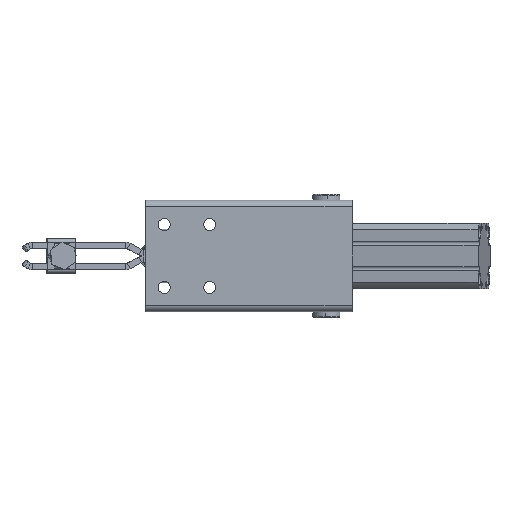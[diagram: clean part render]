
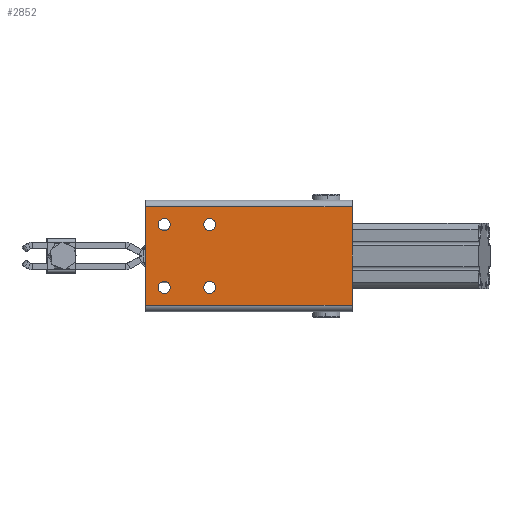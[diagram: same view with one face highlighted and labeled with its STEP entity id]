
A CAD part, front view. The second image highlights one B-rep face of the part: STEP entity #2852.
In plain terms, the highlighted planar face has unit normal (0, -1, 0).
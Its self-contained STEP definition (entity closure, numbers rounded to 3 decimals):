
#32 = CIRCLE ( 'NONE', #19331, 4.25 ) ;
#216 = VERTEX_POINT ( 'NONE', #6413 ) ;
#349 = EDGE_CURVE ( 'NONE', #5776, #405, #2007, .T. ) ;
#405 = VERTEX_POINT ( 'NONE', #11516 ) ;
#562 = FACE_BOUND ( 'NONE', #16932, .T. ) ;
#929 = EDGE_CURVE ( 'NONE', #15865, #11079, #32, .T. ) ;
#1055 = FACE_OUTER_BOUND ( 'NONE', #5077, .T. ) ;
#1233 = DIRECTION ( 'NONE',  ( -1., 0., 0. ) ) ;
#1346 = DIRECTION ( 'NONE',  ( 0., 0., 1. ) ) ;
#1391 = DIRECTION ( 'NONE',  ( 0., 0., 1. ) ) ;
#1437 = EDGE_CURVE ( 'NONE', #216, #2983, #5170, .T. ) ;
#1479 = CARTESIAN_POINT ( 'NONE',  ( -22., -3.75, -40.75 ) ) ;
#1757 = AXIS2_PLACEMENT_3D ( 'NONE', #11448, #1985, #13012 ) ;
#1985 = DIRECTION ( 'NONE',  ( 0., 1., 0. ) ) ;
#2007 = CIRCLE ( 'NONE', #1757, 4.25 ) ;
#2076 = CIRCLE ( 'NONE', #13935, 4.25 ) ;
#2763 = CARTESIAN_POINT ( 'NONE',  ( 22., -3.75, -40.75 ) ) ;
#2795 = VERTEX_POINT ( 'NONE', #6175 ) ;
#2852 = ADVANCED_FACE ( 'NONE', ( #1055, #8928, #13126, #4733, #562 ), #17236, .F. ) ;
#2951 = EDGE_CURVE ( 'NONE', #10004, #5260, #19032, .T. ) ;
#2983 = VERTEX_POINT ( 'NONE', #16054 ) ;
#3511 = EDGE_LOOP ( 'NONE', ( #18803, #15629 ) ) ;
#3555 = DIRECTION ( 'NONE',  ( 0., 1., 0. ) ) ;
#3577 = EDGE_CURVE ( 'NONE', #13445, #2795, #5747, .T. ) ;
#3643 = DIRECTION ( 'NONE',  ( 0., 0., -1. ) ) ;
#3650 = LINE ( 'NONE', #6225, #16705 ) ;
#3851 = CARTESIAN_POINT ( 'NONE',  ( 22., -3.75, -17.25 ) ) ;
#3860 = EDGE_CURVE ( 'NONE', #2983, #13445, #17041, .T. ) ;
#3885 = EDGE_LOOP ( 'NONE', ( #19570, #11877 ) ) ;
#3990 = AXIS2_PLACEMENT_3D ( 'NONE', #20210, #10801, #1346 ) ;
#4481 = DIRECTION ( 'NONE',  ( 1., 0., 0. ) ) ;
#4487 = ORIENTED_EDGE ( 'NONE', *, *, #4785, .T. ) ;
#4516 = ORIENTED_EDGE ( 'NONE', *, *, #11739, .T. ) ;
#4733 = FACE_BOUND ( 'NONE', #3885, .T. ) ;
#4785 = EDGE_CURVE ( 'NONE', #5260, #10004, #5940, .T. ) ;
#5077 = EDGE_LOOP ( 'NONE', ( #12094, #5567, #18009, #10958 ) ) ;
#5170 = LINE ( 'NONE', #13937, #13550 ) ;
#5260 = VERTEX_POINT ( 'NONE', #12307 ) ;
#5567 = ORIENTED_EDGE ( 'NONE', *, *, #1437, .F. ) ;
#5586 = EDGE_CURVE ( 'NONE', #11079, #15865, #19697, .T. ) ;
#5747 = LINE ( 'NONE', #10687, #14115 ) ;
#5776 = VERTEX_POINT ( 'NONE', #14707 ) ;
#5940 = CIRCLE ( 'NONE', #16591, 4.25 ) ;
#6175 = CARTESIAN_POINT ( 'NONE',  ( -34.5, -3.75, -145. ) ) ;
#6225 = CARTESIAN_POINT ( 'NONE',  ( -34.5, -3.75, -125. ) ) ;
#6300 = AXIS2_PLACEMENT_3D ( 'NONE', #17584, #8157, #19183 ) ;
#6321 = DIRECTION ( 'NONE',  ( 0., 0., 1. ) ) ;
#6413 = CARTESIAN_POINT ( 'NONE',  ( -34.5, -3.75, 0. ) ) ;
#6625 = CARTESIAN_POINT ( 'NONE',  ( -22., -3.75, -45. ) ) ;
#7717 = EDGE_LOOP ( 'NONE', ( #16225, #4487 ) ) ;
#7945 = VERTEX_POINT ( 'NONE', #3851 ) ;
#8105 = CARTESIAN_POINT ( 'NONE',  ( 22., -3.75, -45. ) ) ;
#8157 = DIRECTION ( 'NONE',  ( 0., 1., 0. ) ) ;
#8195 = DIRECTION ( 'NONE',  ( 0., 0., 1. ) ) ;
#8210 = EDGE_CURVE ( 'NONE', #2795, #216, #3650, .T. ) ;
#8399 = DIRECTION ( 'NONE',  ( 0., 1., 0. ) ) ;
#8808 = CARTESIAN_POINT ( 'NONE',  ( 22., -3.75, -49.25 ) ) ;
#8928 = FACE_BOUND ( 'NONE', #3511, .T. ) ;
#9567 = ORIENTED_EDGE ( 'NONE', *, *, #19435, .T. ) ;
#9682 = DIRECTION ( 'NONE',  ( 0., 0., 1. ) ) ;
#9901 = EDGE_CURVE ( 'NONE', #405, #5776, #20381, .T. ) ;
#10004 = VERTEX_POINT ( 'NONE', #1479 ) ;
#10687 = CARTESIAN_POINT ( 'NONE',  ( 98.5, -3.75, -145. ) ) ;
#10801 = DIRECTION ( 'NONE',  ( 0., 1., 0. ) ) ;
#10848 = DIRECTION ( 'NONE',  ( 0., 1., 0. ) ) ;
#10958 = ORIENTED_EDGE ( 'NONE', *, *, #3577, .F. ) ;
#11079 = VERTEX_POINT ( 'NONE', #2763 ) ;
#11198 = CIRCLE ( 'NONE', #12249, 4.25 ) ;
#11448 = CARTESIAN_POINT ( 'NONE',  ( -22., -3.75, -13. ) ) ;
#11516 = CARTESIAN_POINT ( 'NONE',  ( -22., -3.75, -17.25 ) ) ;
#11739 = EDGE_CURVE ( 'NONE', #18715, #7945, #2076, .T. ) ;
#11877 = ORIENTED_EDGE ( 'NONE', *, *, #9901, .T. ) ;
#12094 = ORIENTED_EDGE ( 'NONE', *, *, #3860, .F. ) ;
#12249 = AXIS2_PLACEMENT_3D ( 'NONE', #13001, #3555, #14591 ) ;
#12307 = CARTESIAN_POINT ( 'NONE',  ( -22., -3.75, -49.25 ) ) ;
#12379 = VECTOR ( 'NONE', #3643, 1000. ) ;
#13001 = CARTESIAN_POINT ( 'NONE',  ( 22., -3.75, -13. ) ) ;
#13012 = DIRECTION ( 'NONE',  ( 0., 0., 1. ) ) ;
#13077 = CARTESIAN_POINT ( 'NONE',  ( 34.5, -3.75, -125. ) ) ;
#13126 = FACE_BOUND ( 'NONE', #7717, .T. ) ;
#13445 = VERTEX_POINT ( 'NONE', #14035 ) ;
#13550 = VECTOR ( 'NONE', #4481, 1000. ) ;
#13935 = AXIS2_PLACEMENT_3D ( 'NONE', #17833, #8399, #19427 ) ;
#13937 = CARTESIAN_POINT ( 'NONE',  ( -44.461, -3.75, 0. ) ) ;
#14035 = CARTESIAN_POINT ( 'NONE',  ( 34.5, -3.75, -145. ) ) ;
#14081 = CARTESIAN_POINT ( 'NONE',  ( 98.5, -3.75, -125. ) ) ;
#14115 = VECTOR ( 'NONE', #1233, 1000. ) ;
#14371 = AXIS2_PLACEMENT_3D ( 'NONE', #20261, #10848, #1391 ) ;
#14591 = DIRECTION ( 'NONE',  ( 0., 0., 1. ) ) ;
#14707 = CARTESIAN_POINT ( 'NONE',  ( -22., -3.75, -8.75 ) ) ;
#15454 = CARTESIAN_POINT ( 'NONE',  ( 22., -3.75, -8.75 ) ) ;
#15629 = ORIENTED_EDGE ( 'NONE', *, *, #929, .T. ) ;
#15732 = DIRECTION ( 'NONE',  ( 0., 1., 0. ) ) ;
#15865 = VERTEX_POINT ( 'NONE', #8808 ) ;
#16054 = CARTESIAN_POINT ( 'NONE',  ( 34.5, -3.75, 0. ) ) ;
#16225 = ORIENTED_EDGE ( 'NONE', *, *, #2951, .T. ) ;
#16591 = AXIS2_PLACEMENT_3D ( 'NONE', #6625, #17621, #8195 ) ;
#16705 = VECTOR ( 'NONE', #17217, 1000. ) ;
#16932 = EDGE_LOOP ( 'NONE', ( #4516, #9567 ) ) ;
#17041 = LINE ( 'NONE', #13077, #12379 ) ;
#17217 = DIRECTION ( 'NONE',  ( 0., 0., 1. ) ) ;
#17219 = AXIS2_PLACEMENT_3D ( 'NONE', #14081, #15732, #6321 ) ;
#17236 = PLANE ( 'NONE',  #17219 ) ;
#17584 = CARTESIAN_POINT ( 'NONE',  ( -22., -3.75, -45. ) ) ;
#17621 = DIRECTION ( 'NONE',  ( 0., 1., 0. ) ) ;
#17833 = CARTESIAN_POINT ( 'NONE',  ( 22., -3.75, -13. ) ) ;
#18009 = ORIENTED_EDGE ( 'NONE', *, *, #8210, .F. ) ;
#18715 = VERTEX_POINT ( 'NONE', #15454 ) ;
#18803 = ORIENTED_EDGE ( 'NONE', *, *, #5586, .T. ) ;
#19032 = CIRCLE ( 'NONE', #6300, 4.25 ) ;
#19123 = DIRECTION ( 'NONE',  ( 0., 1., 0. ) ) ;
#19183 = DIRECTION ( 'NONE',  ( 0., 0., 1. ) ) ;
#19331 = AXIS2_PLACEMENT_3D ( 'NONE', #8105, #19123, #9682 ) ;
#19427 = DIRECTION ( 'NONE',  ( 0., 0., 1. ) ) ;
#19435 = EDGE_CURVE ( 'NONE', #7945, #18715, #11198, .T. ) ;
#19570 = ORIENTED_EDGE ( 'NONE', *, *, #349, .T. ) ;
#19697 = CIRCLE ( 'NONE', #14371, 4.25 ) ;
#20210 = CARTESIAN_POINT ( 'NONE',  ( -22., -3.75, -13. ) ) ;
#20261 = CARTESIAN_POINT ( 'NONE',  ( 22., -3.75, -45. ) ) ;
#20381 = CIRCLE ( 'NONE', #3990, 4.25 ) ;
